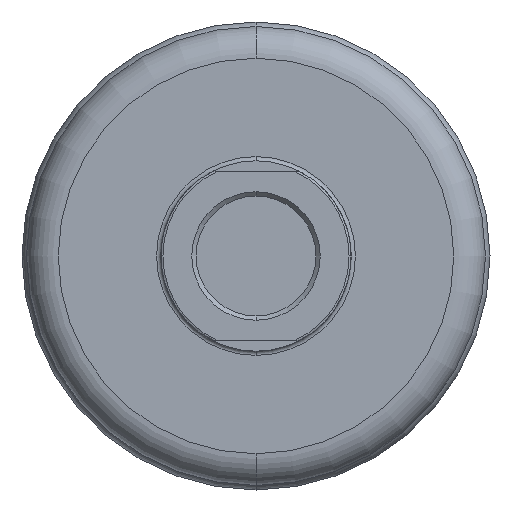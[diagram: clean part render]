
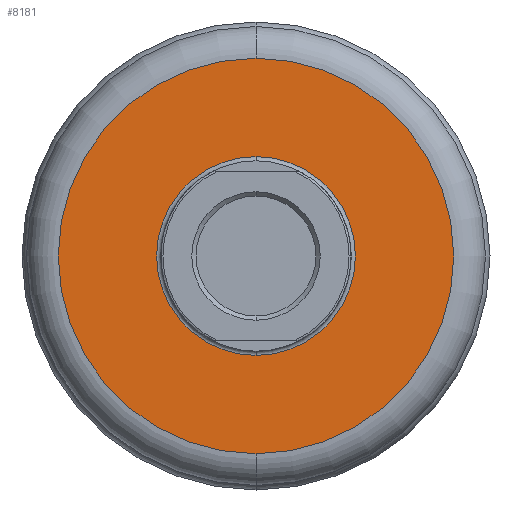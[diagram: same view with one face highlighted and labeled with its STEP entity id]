
A CAD part, front view. The second image highlights one B-rep face of the part: STEP entity #8181.
In plain terms, the highlighted planar face has unit normal (0, -1, 0).
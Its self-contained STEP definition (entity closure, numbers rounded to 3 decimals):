
#103 = ORIENTED_EDGE ( 'NONE', *, *, #17884, .T. ) ;
#1431 = ORIENTED_EDGE ( 'NONE', *, *, #10635, .T. ) ;
#1706 = AXIS2_PLACEMENT_3D ( 'NONE', #13389, #20033, #16409 ) ;
#1981 = CARTESIAN_POINT ( 'NONE',  ( 80.539, -312.481, 259.077 ) ) ;
#2346 = AXIS2_PLACEMENT_3D ( 'NONE', #9916, #14489, #4949 ) ;
#3983 = VERTEX_POINT ( 'NONE', #1981 ) ;
#4500 = CARTESIAN_POINT ( 'NONE',  ( 80.539, -312.481, 352.577 ) ) ;
#4607 = DIRECTION ( 'NONE',  ( 0., 1., 0. ) ) ;
#4949 = DIRECTION ( 'NONE',  ( 0., 0., 1. ) ) ;
#5004 = ORIENTED_EDGE ( 'NONE', *, *, #7176, .F. ) ;
#5294 = EDGE_LOOP ( 'NONE', ( #1431, #103 ) ) ;
#5700 = CARTESIAN_POINT ( 'NONE',  ( 80.539, -312.481, 305.577 ) ) ;
#5760 = CARTESIAN_POINT ( 'NONE',  ( 80.539, -312.481, 446.077 ) ) ;
#5982 = DIRECTION ( 'NONE',  ( 0., 1., 0. ) ) ;
#6083 = AXIS2_PLACEMENT_3D ( 'NONE', #4500, #4607, #9256 ) ;
#7019 = AXIS2_PLACEMENT_3D ( 'NONE', #7385, #10851, #8761 ) ;
#7176 = EDGE_CURVE ( 'NONE', #3983, #9533, #15903, .T. ) ;
#7225 = VERTEX_POINT ( 'NONE', #19060 ) ;
#7378 = CIRCLE ( 'NONE', #7019, 47. ) ;
#7385 = CARTESIAN_POINT ( 'NONE',  ( 80.539, -312.481, 352.577 ) ) ;
#7964 = AXIS2_PLACEMENT_3D ( 'NONE', #14050, #5982, #18709 ) ;
#7974 = EDGE_CURVE ( 'NONE', #9533, #3983, #9124, .T. ) ;
#8181 = ADVANCED_FACE ( 'NONE', ( #16717, #19730 ), #13700, .T. ) ;
#8761 = DIRECTION ( 'NONE',  ( 0., 0., 1. ) ) ;
#9124 = CIRCLE ( 'NONE', #6083, 93.5 ) ;
#9256 = DIRECTION ( 'NONE',  ( 0., 0., 1. ) ) ;
#9475 = VERTEX_POINT ( 'NONE', #5700 ) ;
#9533 = VERTEX_POINT ( 'NONE', #5760 ) ;
#9916 = CARTESIAN_POINT ( 'NONE',  ( 80.539, -312.481, 352.577 ) ) ;
#10635 = EDGE_CURVE ( 'NONE', #7225, #9475, #7378, .T. ) ;
#10851 = DIRECTION ( 'NONE',  ( 0., 1., 0. ) ) ;
#10966 = EDGE_LOOP ( 'NONE', ( #17368, #5004 ) ) ;
#13389 = CARTESIAN_POINT ( 'NONE',  ( 33.539, -312.481, 352.577 ) ) ;
#13700 = PLANE ( 'NONE',  #1706 ) ;
#14050 = CARTESIAN_POINT ( 'NONE',  ( 80.539, -312.481, 352.577 ) ) ;
#14489 = DIRECTION ( 'NONE',  ( 0., 1., 0. ) ) ;
#15903 = CIRCLE ( 'NONE', #7964, 93.5 ) ;
#16409 = DIRECTION ( 'NONE',  ( 0., 0., -1. ) ) ;
#16717 = FACE_BOUND ( 'NONE', #5294, .T. ) ;
#17347 = CIRCLE ( 'NONE', #2346, 47. ) ;
#17368 = ORIENTED_EDGE ( 'NONE', *, *, #7974, .F. ) ;
#17884 = EDGE_CURVE ( 'NONE', #9475, #7225, #17347, .T. ) ;
#18709 = DIRECTION ( 'NONE',  ( 0., 0., 1. ) ) ;
#19060 = CARTESIAN_POINT ( 'NONE',  ( 80.539, -312.481, 399.577 ) ) ;
#19730 = FACE_OUTER_BOUND ( 'NONE', #10966, .T. ) ;
#20033 = DIRECTION ( 'NONE',  ( 0., -1., 0. ) ) ;
